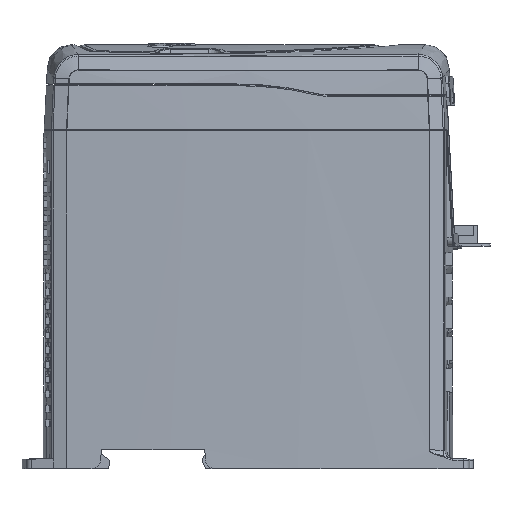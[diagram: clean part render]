
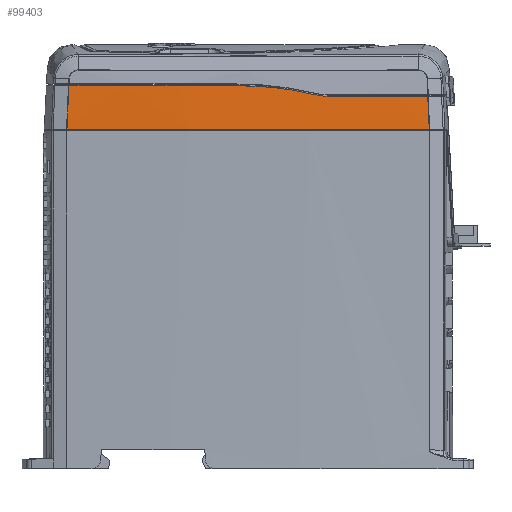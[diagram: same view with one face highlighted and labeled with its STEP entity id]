
A CAD part, left-side view. The second image highlights one B-rep face of the part: STEP entity #99403.
In plain terms, the highlighted conical face has half-angle 3 degrees and reference radius 1496.69 mm.
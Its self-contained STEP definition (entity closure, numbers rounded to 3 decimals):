
#93690=CARTESIAN_POINT('',(1459.583,0.,
116.));
#93691=DIRECTION('',(0.,0.,1.));
#93692=DIRECTION('',(-0.999,0.041,0.));
#93693=AXIS2_PLACEMENT_3D('',#93690,#93691,#93692);
#95267=CARTESIAN_POINT('',(1459.583,0.,
131.));
#95268=DIRECTION('',(0.,0.,-1.));
#95269=DIRECTION('',(-1.,0.003,0.));
#95270=AXIS2_PLACEMENT_3D('',#95267,#95268,#95269);
#95344=CARTESIAN_POINT('',(1459.583,0.,
127.3));
#95345=DIRECTION('',(0.,0.,-1.));
#95346=DIRECTION('',(-0.999,-0.041,
0.));
#95347=AXIS2_PLACEMENT_3D('',#95344,#95345,#95346);
#95448=CARTESIAN_POINT('',(-35.647,-61.425,
127.3));
#95449=CARTESIAN_POINT('',(-35.71,-61.481,
126.044));
#95450=CARTESIAN_POINT('',(-35.837,-61.594,
123.533));
#95451=CARTESIAN_POINT('',(-36.028,-61.762,
119.767));
#95452=CARTESIAN_POINT('',(-36.155,-61.875,
117.256));
#95453=CARTESIAN_POINT('',(-36.218,-61.931,
116.));
#95455=CARTESIAN_POINT('',(-36.218,61.931,
116.));
#95456=CARTESIAN_POINT('',(-36.134,61.856,
117.667));
#95457=CARTESIAN_POINT('',(-35.965,61.707,
121.));
#95458=CARTESIAN_POINT('',(-35.712,61.483,
126.));
#95459=CARTESIAN_POINT('',(-35.544,61.334,
129.333));
#95460=CARTESIAN_POINT('',(-35.459,61.259,
131.));
#95462=CARTESIAN_POINT('',(-36.708,4.2,
131.));
#95463=CARTESIAN_POINT('',(-36.717,1.173,
131.));
#95464=CARTESIAN_POINT('',(-36.726,-4.882,
130.765));
#95465=CARTESIAN_POINT('',(-36.728,-13.909,
129.708));
#95466=CARTESIAN_POINT('',(-36.714,-19.854,
128.539));
#95467=CARTESIAN_POINT('',(-36.706,-22.8,
127.84));
#95469=CARTESIAN_POINT('',(-36.706,-22.8,
127.84));
#95470=CARTESIAN_POINT('',(-36.704,-23.304,
127.721));
#95471=CARTESIAN_POINT('',(-36.699,-24.321,
127.521));
#95472=CARTESIAN_POINT('',(-36.682,-25.865,
127.34));
#95473=CARTESIAN_POINT('',(-36.666,-26.9,
127.3));
#95474=CARTESIAN_POINT('',(-36.657,-27.418,
127.3));
#96703=CARTESIAN_POINT('',(-36.218,61.931,
116.));
#96704=CARTESIAN_POINT('',(-36.218,-61.931,
116.));
#96705=VERTEX_POINT('',#96703);
#96706=VERTEX_POINT('',#96704);
#97163=CARTESIAN_POINT('',(-35.647,-61.425,
127.3));
#97164=CARTESIAN_POINT('',(-36.657,-27.418,
127.3));
#97165=VERTEX_POINT('',#97163);
#97166=VERTEX_POINT('',#97164);
#97192=CARTESIAN_POINT('',(-36.706,-22.8,
127.84));
#97193=VERTEX_POINT('',#97192);
#97194=CARTESIAN_POINT('',(-36.708,4.2,
131.));
#97195=VERTEX_POINT('',#97194);
#97196=CARTESIAN_POINT('',(-35.459,61.26,
131.));
#97197=VERTEX_POINT('',#97196);
#99388=CARTESIAN_POINT('',(1459.583,0.,
123.5));
#99389=DIRECTION('',(0.,0.,-1.));
#99390=DIRECTION('',(0.999,-0.043,0.));
#99391=AXIS2_PLACEMENT_3D('',#99388,#99389,#99390);
#99392=CONICAL_SURFACE('',#99391,1496.69,3.);
#99393=ORIENTED_EDGE('',*,*,#99378,.T.);
#99394=ORIENTED_EDGE('',*,*,#97376,.F.);
#99396=ORIENTED_EDGE('',*,*,#99395,.T.);
#99397=ORIENTED_EDGE('',*,*,#99152,.F.);
#99398=ORIENTED_EDGE('',*,*,#99187,.T.);
#99399=ORIENTED_EDGE('',*,*,#99265,.T.);
#99400=ORIENTED_EDGE('',*,*,#99291,.F.);
#99401=EDGE_LOOP('',(#99393,#99394,#99396,#99397,#99398,#99399,#99400));
#99402=FACE_OUTER_BOUND('',#99401,.F.);
#99403=ADVANCED_FACE('',(#99402),#99392,.T.);
#93694=CIRCLE('',#93693,1497.083);
#95271=CIRCLE('',#95270,1496.297);
#95348=CIRCLE('',#95347,1496.491);
#95454=B_SPLINE_CURVE_WITH_KNOTS('',3,(#95448,#95449,#95450,#95451,#95452,
#95453),.UNSPECIFIED.,.F.,.F.,(4,1,1,4),(0.,0.333,
0.667,1.),.UNSPECIFIED.);
#95461=B_SPLINE_CURVE_WITH_KNOTS('',3,(#95455,#95456,#95457,#95458,#95459,
#95460),.UNSPECIFIED.,.F.,.F.,(4,1,1,4),(0.,0.333,
0.667,1.),.UNSPECIFIED.);
#95468=B_SPLINE_CURVE_WITH_KNOTS('',3,(#95462,#95463,#95464,#95465,#95466,
#95467),.UNSPECIFIED.,.F.,.F.,(4,1,1,4),(0.,0.333,
0.667,1.),.UNSPECIFIED.);
#95475=B_SPLINE_CURVE_WITH_KNOTS('',3,(#95469,#95470,#95471,#95472,#95473,
#95474),.UNSPECIFIED.,.F.,.F.,(4,1,1,4),(0.,0.333,
0.667,1.),.UNSPECIFIED.);
#97376=EDGE_CURVE('',#96705,#96706,#93694,.T.);
#99152=EDGE_CURVE('',#97195,#97197,#95271,.T.);
#99187=EDGE_CURVE('',#97195,#97193,#95468,.T.);
#99265=EDGE_CURVE('',#97193,#97166,#95475,.T.);
#99291=EDGE_CURVE('',#97165,#97166,#95348,.T.);
#99378=EDGE_CURVE('',#97165,#96706,#95454,.T.);
#99395=EDGE_CURVE('',#96705,#97197,#95461,.T.);
